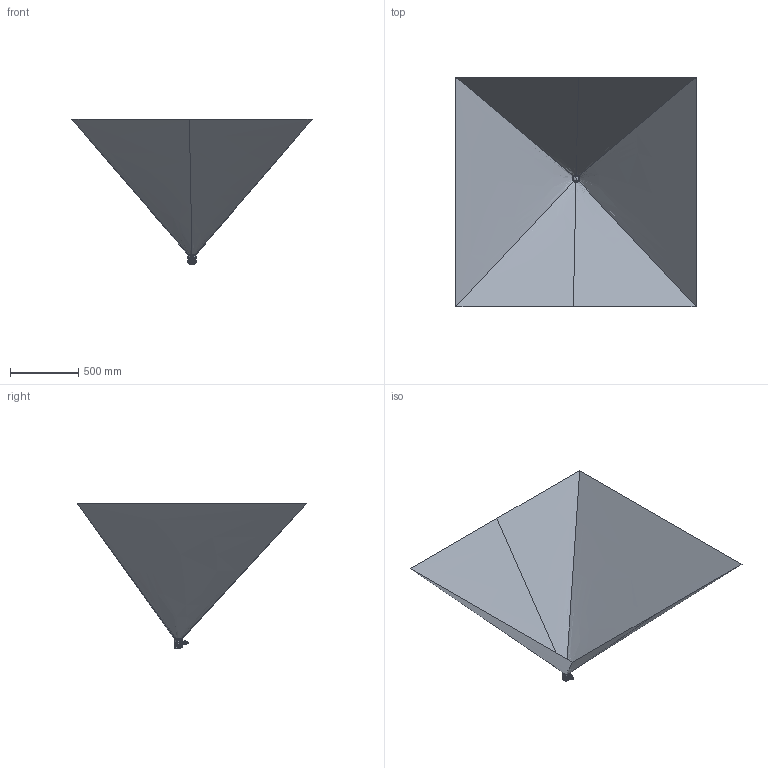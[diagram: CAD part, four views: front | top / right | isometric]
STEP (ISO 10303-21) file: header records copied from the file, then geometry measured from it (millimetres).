
FILE_DESCRIPTION(('CATIA V5 STEP Exchange','CAx-IF Rec.Pracs.--- Model Styling and Organization---1.5--- 2016-08-15','CAx-IF Rec.Pracs.---Supplemental Geometry---1.0---2011-11-01','CAx-IF Rec.Pracs.--- Composite Materials ---1.1---2010-07-15'),'2;1');
FILE_NAME('E:\tmp\ddx\2011218\HELLA_3D_data_Module_50_LED_1G0-995-050-00.stp','2022-01-18T07:20:31+00:00',('none'),('none'),'CATIA Version 5-6 Release 2020 SP3 HF9','CATIA V5 STEP AP214 Edition 3 v2','none');
FILE_SCHEMA(('AUTOMOTIVE_DESIGN { 1 0 10303 214 3 1 1 1 }'));
Products named in the file (1): 10001052665_D10_001
Bounding box: 1762.2 x 1684.61 x 1069.2 mm (x, y, z)
Volume: 154177.2 mm3; surface area: 4652918.4 mm2
Topology: 3 solids, 4 shells, 2344 faces, 5698 edges, 3322 vertices
Faces by surface type: bspline 1099, plane 344, cylinder 313, cone 182, extrusion 171, torus 163, sphere 48, revolution 24
Entity records: 136670 total; most frequent: CARTESIAN_POINT 94870, ORIENTED_EDGE 11224, EDGE_CURVE 5618, DIRECTION 3759, B_SPLINE_CURVE_WITH_KNOTS 3662, VERTEX_POINT 3322, EDGE_LOOP 2396, ADVANCED_FACE 2344
